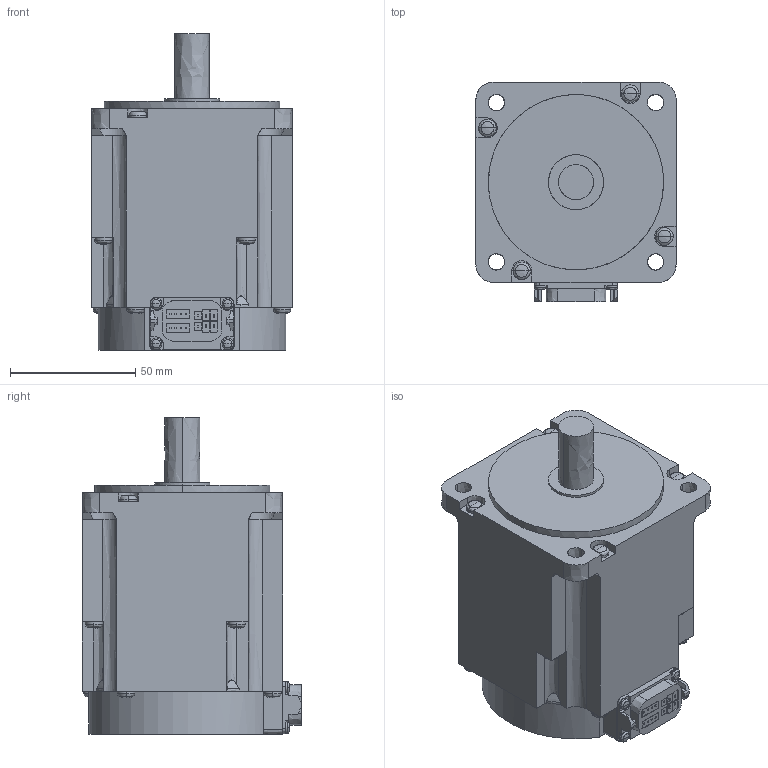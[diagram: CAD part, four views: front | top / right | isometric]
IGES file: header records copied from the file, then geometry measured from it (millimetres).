
Start section:  PTC IGES file: hk-kt43uwb_-_asm.igs
Global section: file name: hk-kt43uwb_-_asm.igs; native system: Creo Parametric by PTC Inc.; preprocessor: 2016380; author: XE90682; organization: Unknown; date: 20190116.110235; units: millimetre
Bounding box: 80 x 87.65 x 126.5 mm (x, y, z)
Volume: 544628.9 mm3; surface area: 45319.8 mm2
Topology: 1 solids, 1 shells, 401 faces, 1043 edges, 655 vertices
Faces by surface type: bspline 401
